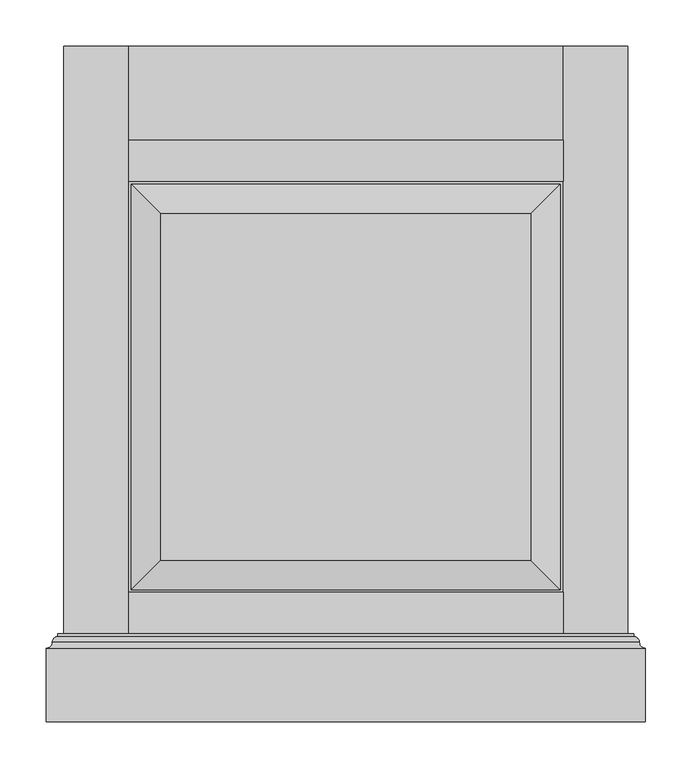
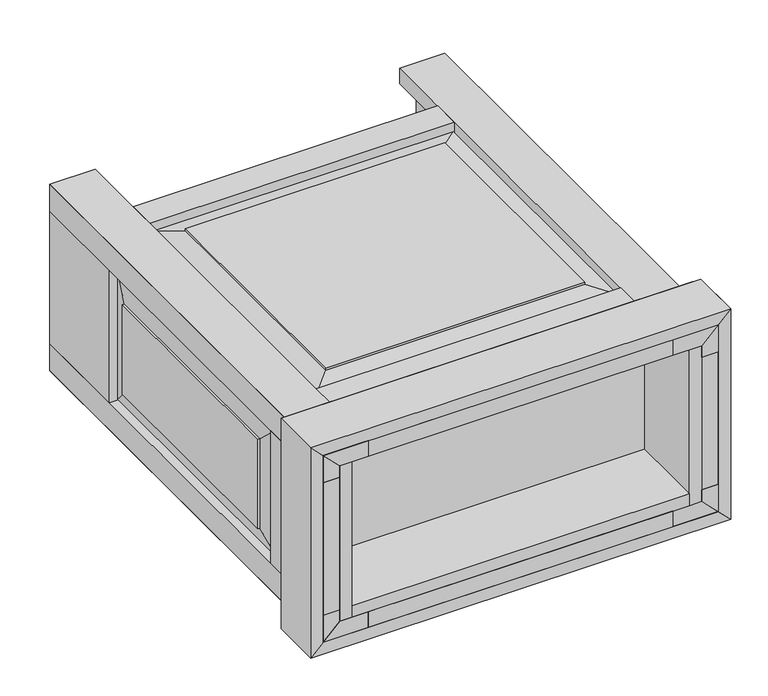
"""IFC4 building model written with IfcOpenShell, lengths in millimetres: proxy geometry, CAMBRIDGE^TABLE 4_HINGED DOOR BASE-ASSEMBLY."""

import ifcopenshell
import ifcopenshell.guid

model = None  # the IFC model being written
_history = None  # IfcOwnerHistory: only IFC2X3 demands one
_inside = {}  # id of a spatial element -> (the spatial element, [elements in it])
_under = {}  # id of a project, library or spatial element -> (it, [spatial elements below it])
_declared = {}  # id of a project -> (the project, [libraries it declares])
_typed = {}  # id of a type object -> (the type object, [elements of that type])
_made_of = {}  # id of a material, layer set ... -> (it, [elements and type objects made of it])


def new_model(schema):
    """Start an empty IFC model of exactly this schema.

    Asked for "IFC4X3", IfcOpenShell would pick the latest addendum, in which some entities
    have other attributes; the version numbers below select the first issue.
    IFC2X3 requires an IfcOwnerHistory on every rooted entity: one is made here for all.
    """
    global model, _history
    if schema == "IFC4X3":
        model = ifcopenshell.file(schema_version=(4, 3, 0, 0))
    else:
        model = ifcopenshell.file(schema=schema)
    _inside.clear()
    _under.clear()
    _declared.clear()
    _typed.clear()
    _made_of.clear()
    _history = None
    if model.schema == "IFC2X3":
        org = make("IfcOrganization", Name="unknown")
        user = make(
            "IfcPersonAndOrganization",
            ThePerson=make("IfcPerson", FamilyName="unknown"),
            TheOrganization=org,
        )
        app = make(
            "IfcApplication",
            ApplicationDeveloper=org,
            Version="unknown",
            ApplicationFullName="unknown",
            ApplicationIdentifier="unknown",
        )
        _history = make(
            "IfcOwnerHistory",
            OwningUser=user,
            OwningApplication=app,
            ChangeAction="ADDED",
            CreationDate=0,
        )
    return model


def make(cls, **values):
    """One entity of the class cls with the attributes given. An attribute that is None is left unset."""
    return model.create_entity(
        cls, **{name: value for name, value in values.items() if value is not None}
    )


def rooted(cls, **values):
    """An entity with a GlobalId (a new one), such as an element, a storey or a relation."""
    return make(cls, GlobalId=ifcopenshell.guid.new(), OwnerHistory=_history, **values)


def si_unit(unit_type, name, prefix=None):
    """IfcSIUnit, for example si_unit("LENGTHUNIT", "METRE", prefix="MILLI")."""
    return make("IfcSIUnit", UnitType=unit_type, Prefix=prefix, Name=name)


def assignment(units):
    """IfcUnitAssignment: the units of a project."""
    return None if units is None else make("IfcUnitAssignment", Units=units)


def point(xyz):
    """IfcCartesianPoint."""
    return None if xyz is None else make("IfcCartesianPoint", Coordinates=xyz)


def direction(xyz):
    """IfcDirection."""
    return None if xyz is None else make("IfcDirection", DirectionRatios=xyz)


def frame(location, z_axis=None, x_axis=None):
    """IfcAxis2Placement3D, a coordinate frame: its origin and axes. An axis left out is left unset."""
    return make(
        "IfcAxis2Placement3D",
        Location=point(location),
        Axis=direction(z_axis),
        RefDirection=direction(x_axis),
    )


def origin():
    """The frame at (0, 0, 0) with its axes left unset."""
    return frame((0.0, 0.0, 0.0))


def place(relative_to, where):
    """IfcLocalPlacement: puts the frame where relative to a parent placement (None: the world)."""
    return make(
        "IfcLocalPlacement", PlacementRelTo=relative_to, RelativePlacement=where
    )


def context(
    kind, dimensions, precision=None, world=None, true_north=None, identifier=None
):
    """IfcGeometricRepresentationContext, for example the 3D "Model" context."""
    return make(
        "IfcGeometricRepresentationContext",
        ContextIdentifier=identifier,
        ContextType=kind,
        CoordinateSpaceDimension=dimensions,
        Precision=precision,
        WorldCoordinateSystem=world,
        TrueNorth=true_north,
    )


def project(units=None, contexts=None):
    """IfcProject with its units and contexts."""
    return rooted(
        "IfcProject",
        Name="project",
        RepresentationContexts=contexts,
        UnitsInContext=assignment(units),
    )


def spatial(cls, under=None, at=None, **own):
    """A site, building, storey or space (cls), placed at a placement, below another one or the project."""
    s = rooted(cls, ObjectPlacement=at, **own)
    if under is not None:
        _under.setdefault(under.id(), (under, []))[1].append(s)
    return s


def polyline(points):
    """IfcPolyline through the points."""
    return make("IfcPolyline", Points=[point(p) for p in points])


def ellipse_curve(where, semi_axis1, semi_axis2):
    """IfcEllipse in the frame where."""
    return make(
        "IfcEllipse", Position=where, SemiAxis1=semi_axis1, SemiAxis2=semi_axis2
    )


def outline(outer, holes=None, kind="AREA"):
    """IfcArbitraryClosedProfileDef: a profile drawn as a closed curve; with holes, ...WithVoids."""
    if holes is None:
        return make("IfcArbitraryClosedProfileDef", ProfileType=kind, OuterCurve=outer)
    return make(
        "IfcArbitraryProfileDefWithVoids",
        ProfileType=kind,
        OuterCurve=outer,
        InnerCurves=holes,
    )


def extrude(swept, where, along, depth):
    """IfcExtrudedAreaSolid: the profile swept, set in the frame where, extruded along a direction by depth."""
    return make(
        "IfcExtrudedAreaSolid",
        SweptArea=swept,
        Position=where,
        ExtrudedDirection=direction(along),
        Depth=depth,
    )


def faces_of(points, faces, orient=None, outer=None):
    """IfcFace entities. A face is a list of loops; a loop is a list of indices into points, from 0.

    orient and outer hold one flag for each loop. By default every Orientation is true, the
    first loop of a face is its IfcFaceOuterBound and the others are IfcFaceBound.
    """
    made = []
    for i, loops in enumerate(faces):
        bounds = []
        for j, loop in enumerate(loops):
            is_outer = j == 0 if outer is None else outer[i][j]
            bounds.append(
                make(
                    "IfcFaceOuterBound" if is_outer else "IfcFaceBound",
                    Bound=make("IfcPolyLoop", Polygon=[points[k] for k in loop]),
                    Orientation=True if orient is None else orient[i][j],
                )
            )
        made.append(make("IfcFace", Bounds=bounds))
    return made


def faceted_brep(points, faces, orient=None, outer=None, voids=None):
    """IfcFacetedBrep: a solid bounded by flat faces; with voids (closed shells), ...WithVoids."""
    shared = [point(p) for p in points]
    hull = make("IfcClosedShell", CfsFaces=faces_of(shared, faces, orient, outer))
    if voids is None:
        return make("IfcFacetedBrep", Outer=hull)
    return make(
        "IfcFacetedBrepWithVoids",
        Outer=hull,
        Voids=[
            make(cls, CfsFaces=faces_of(shared, fs, o, b)) for cls, fs, o, b in voids
        ],
    )


def shape(context_of_items, identifier, shape_type, items):
    """IfcShapeRepresentation: the items that make up one representation, for example the "Body"."""
    return make(
        "IfcShapeRepresentation",
        ContextOfItems=context_of_items,
        RepresentationIdentifier=identifier,
        RepresentationType=shape_type,
        Items=items,
    )


def source(mapping_origin, context_of_items, identifier, shape_type, items):
    """IfcRepresentationMap: a shape defined once, which mapped items show again and again."""
    return make(
        "IfcRepresentationMap",
        MappingOrigin=mapping_origin,
        MappedRepresentation=shape(context_of_items, identifier, shape_type, items),
    )


def transform(
    local_origin,
    x_axis=None,
    y_axis=None,
    z_axis=None,
    scale=None,
    scale2=None,
    scale3=None,
    uniform=True,
):
    """IfcCartesianTransformationOperator3D, or its non-uniform kind. x_axis, y_axis, z_axis: its Axis1, 2, 3."""
    if uniform:
        return make(
            "IfcCartesianTransformationOperator3D",
            Axis1=direction(x_axis),
            Axis2=direction(y_axis),
            LocalOrigin=point(local_origin),
            Scale=scale,
            Axis3=direction(z_axis),
        )
    return make(
        "IfcCartesianTransformationOperator3DnonUniform",
        Axis1=direction(x_axis),
        Axis2=direction(y_axis),
        LocalOrigin=point(local_origin),
        Scale=scale,
        Axis3=direction(z_axis),
        Scale2=scale2,
        Scale3=scale3,
    )


def mapped(mapping_source, mapping_target):
    """IfcMappedItem: shows the shape of a source again, moved by a transform."""
    return make(
        "IfcMappedItem", MappingSource=mapping_source, MappingTarget=mapping_target
    )


def made_of(thing, what):
    """Note that an element or type object is made of a material, layer set ...; save() writes the relation."""
    if what is not None:
        _made_of.setdefault(what.id(), (what, []))[1].append(thing)
    return thing


def element(
    cls,
    number,
    at=None,
    inside=None,
    cuts=None,
    type_object=None,
    material=None,
    context=None,
    identifier="Body",
    shape_type=None,
    held_by="IfcProductDefinitionShape",
    body=None,
    shapes=None,
    **own,
):
    """One element of the class cls, such as IfcWall. Its Tag is "e" and its number.

    at: its placement. inside: the storey or other place that contains it. cuts: it is an
    opening in that element (IfcRelVoidsElement). A single representation is given by context,
    identifier, shape_type and body (its items); several are given by shapes. held_by: the class
    of the entity that holds the representations. save() writes the other relations.
    """
    e = rooted(cls, Tag="e%d" % number, ObjectPlacement=at, **own)
    if body is not None:
        shapes = [shape(context, identifier, shape_type, body)]
    if shapes is not None:
        e.Representation = make(held_by, Representations=shapes)
    if inside is not None:
        _inside.setdefault(inside.id(), (inside, []))[1].append(e)
    if cuts is not None:
        rooted(
            "IfcRelVoidsElement", RelatingBuildingElement=cuts, RelatedOpeningElement=e
        )
    if type_object is not None:
        _typed.setdefault(type_object.id(), (type_object, []))[1].append(e)
    return made_of(e, material)


def aggregate(whole, parts):
    """IfcRelAggregates: a whole, such as a stair, and the parts it consists of."""
    return rooted("IfcRelAggregates", RelatingObject=whole, RelatedObjects=parts)


def save(model, path):
    """Write the relations noted so far, then the file.

    IfcRelAggregates (storeys below a building ...), IfcRelContainedInSpatialStructure (elements
    in a storey), IfcRelDefinesByType, IfcRelAssociatesMaterial and IfcRelDeclares: one each for
    every whole, place, type object, material and project.
    """
    for whole, parts in _under.values():
        aggregate(whole, parts)
    for where, things in _inside.values():
        rooted(
            "IfcRelContainedInSpatialStructure",
            RelatedElements=things,
            RelatingStructure=where,
        )
    for kind, things in _typed.values():
        rooted("IfcRelDefinesByType", RelatedObjects=things, RelatingType=kind)
    for what, things in _made_of.values():
        rooted("IfcRelAssociatesMaterial", RelatedObjects=things, RelatingMaterial=what)
    for by, libraries in _declared.values():
        rooted("IfcRelDeclares", RelatingContext=by, RelatedDefinitions=libraries)
    model.write(path)


def plane_surface(at):
    """IfcPlane: the flat surface through the origin of the frame at, square to its z axis."""
    return make("IfcPlane", Position=at)


def cylinder_surface(at, radius):
    """IfcCylindricalSurface: all points at the distance radius from the z axis of the frame at."""
    return make("IfcCylindricalSurface", Position=at, Radius=radius)


def revolved_surface(curve, axis_point, axis_direction):
    """IfcSurfaceOfRevolution: the curve turned about the line through axis_point along axis_direction."""
    return make(
        "IfcSurfaceOfRevolution",
        SweptCurve=make("IfcArbitraryOpenProfileDef", ProfileType="CURVE", Curve=curve),
        AxisPosition=make("IfcAxis1Placement", Location=point(axis_point), Axis=direction(axis_direction)),
    )


def advanced_brep(points, edges, surfaces, faces):
    """IfcAdvancedBrep: a solid bounded by faces that lie on surfaces and meet in shared edges.

    An edge is (start, end): straight between two places in points (the first is 0);
    or (start, end, curve); or (start, end, curve, False) where it runs against its curve.
    A face is (place in surfaces, loops), or (place, loops, False) where it looks against
    its surface's normal. A loop lists edges by number (the first is 1), with a minus sign
    where the edge is run from its end to its start. The first loop is the outer one.
    """
    corners = [point(p) for p in points]
    vertices = [make("IfcVertexPoint", VertexGeometry=c) for c in corners]
    made = []
    for start, end, *more in edges:
        made.append(
            make(
                "IfcEdgeCurve",
                EdgeStart=vertices[start],
                EdgeEnd=vertices[end],
                EdgeGeometry=more[0] if more else make("IfcPolyline", Points=[corners[start], corners[end]]),
                SameSense=more[1] if len(more) > 1 else True,
            )
        )
    hull = []
    for where, loops, *sense in faces:
        bounds = []
        for j, loop in enumerate(loops):
            ring = [make("IfcOrientedEdge", EdgeElement=made[abs(k) - 1], Orientation=k > 0) for k in loop]
            bounds.append(
                make(
                    "IfcFaceOuterBound" if j == 0 else "IfcFaceBound",
                    Bound=make("IfcEdgeLoop", EdgeList=ring),
                    Orientation=True,
                )
            )
        hull.append(make("IfcAdvancedFace", Bounds=bounds, FaceSurface=surfaces[where], SameSense=sense[0] if sense else True))
    return make("IfcAdvancedBrep", Outer=make("IfcClosedShell", CfsFaces=hull))


def generic_models_1f10b902(model_context):
    return source(origin(), model_context, "Body", "SolidModel", [
        extrude(outline(polyline([(25.4, 0.0), (0.0, 0.0), (0.0, 139.7), (25.4, 139.7), (25.4, 0.0)])), frame((0.0, 0.0, -260.35), z_axis=(0.0, 0.0, 1.0), x_axis=(1.0, 0.0, 0.0)), (0.0, 0.0, 1.0), 215.9),
        extrude(outline(polyline([(584.2, 571.5), (584.2, 730.25), (609.6, 730.25), (609.6, 571.5), (584.2, 571.5)])), frame((0.0, 0.0, -260.35), z_axis=(0.0, 0.0, 1.0), x_axis=(1.0, 0.0, 0.0)), (0.0, 0.0, 1.0), 215.9),
        extrude(outline(polyline([(0.0, 69.85), (0.0, 0.0), (-25.4, 25.4), (-25.4, 69.85), (0.0, 69.85)])), frame((0.0, 0.0, 0.0), z_axis=(0.0, 1.0, 0.0), x_axis=(0.0, 0.0, 1.0)), (0.0, 0.0, 1.0), 730.25),
        extrude(outline(polyline([(-260.35, 584.2), (-279.4, 584.2), (-304.8, 609.6), (-260.35, 609.6), (-260.35, 584.2)])), frame((0.0, 0.0, 0.0), z_axis=(0.0, 1.0, 0.0), x_axis=(0.0, 0.0, 1.0)), (0.0, 0.0, 1.0), 730.25),
        advanced_brep(
        [(-12.7, 85.725, 12.7), (-19.05, 79.375, 19.05), (628.65, 79.375, 19.05), (622.3, 85.725, 12.7), (-6.35, 92.075, 6.35), (615.95, 92.075, 6.35), (-6.35, 95.25, 6.35), (615.95, 95.25, 6.35), (0.0, 95.25, 0.0), (0.0, 0.0, 0.0), (-19.05, 0.0, 19.05), (609.6, 95.25, 0.0), (609.6, 0.0, 0.0), (628.65, 0.0, 19.05)],
        [
            (0, 1, ellipse_curve(frame((-19.05, 85.725, 19.05), z_axis=(-0.7071067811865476, 0.0, -0.7071067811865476), x_axis=(0.7071067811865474, 0.0, -0.7071067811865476)), 8.9802561, 6.35)),
            (1, 2),
            (2, 3, ellipse_curve(frame((628.65, 85.725, 19.05), z_axis=(0.7071067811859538, 0.0, -0.7071067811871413), x_axis=(0.7071067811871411, 0.0, 0.7071067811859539)), 8.9802561, 6.35)),
            (3, 0),
            (4, 0, ellipse_curve(frame((-6.35, 85.725, 6.35), z_axis=(0.7071067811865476, 0.0, 0.7071067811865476), x_axis=(0.7071067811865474, 0.0, -0.7071067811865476)), 8.9802561, 6.35)),
            (3, 5, ellipse_curve(frame((615.95, 85.725, 6.35), z_axis=(-0.7071067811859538, 0.0, 0.7071067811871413), x_axis=(0.7071067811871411, 0.0, 0.7071067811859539)), 8.9802561, 6.35)),
            (5, 4),
            (6, 4),
            (5, 7),
            (7, 6),
            (6, 8),
            (8, 9),
            (9, 10),
            (10, 1),
            (7, 11),
            (11, 8),
            (12, 9),
            (11, 12),
            (2, 13),
            (13, 12),
            (10, 13),
        ],
        [
            revolved_surface(polyline([(634.9999999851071, 79.375, 19.05), (-25.399999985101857, 79.375, 19.05)]), (-19.05, 85.725, 19.05), (1.0, 0.0, 0.0)),
            cylinder_surface(frame((-19.05, 85.725, 6.35), z_axis=(1.0, 0.0, 0.0), x_axis=(0.0, -1.0, 0.0)), 6.35),
            plane_surface(frame((-19.05, 92.075, 6.35), z_axis=(0.0, 0.0, 1.0), x_axis=(0.0, 1.0, 0.0))),
            plane_surface(frame((0.0, 0.0, 0.0), z_axis=(-0.7071067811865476, 0.0, -0.7071067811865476), x_axis=(-0.7071067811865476, 0.0, 0.7071067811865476))),
            plane_surface(frame((304.8, 95.25, 9.525), z_axis=(0.0, 1.0, 0.0), x_axis=(0.0, 0.0, 1.0))),
            plane_surface(frame((609.6, 0.0, 0.0), z_axis=(0.0, 0.0, -1.0), x_axis=(-1.0, 0.0, 0.0))),
            plane_surface(frame((628.65, 0.0, 19.05), z_axis=(0.7071067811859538, 0.0, -0.7071067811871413), x_axis=(-0.7071067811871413, 0.0, -0.7071067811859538))),
            plane_surface(frame((-19.05, 0.0, 19.05), z_axis=(0.0, 0.0, 1.0), x_axis=(1.0, 0.0, 0.0))),
            plane_surface(frame((304.8, 0.0, 9.525), z_axis=(0.0, -1.0, 0.0), x_axis=(0.0, 0.0, -1.0))),
        ],
        [
            (0, [[1, 2, 3, 4]]),
            (1, [[5, -4, 6, 7]]),
            (2, [[8, -7, 9, 10]]),
            (3, [[-1, -5, -8, 11, 12, 13, 14]]),
            (4, [[-10, 15, 16, -11]]),
            (5, [[17, -12, -16, 18]]),
            (6, [[-3, 19, 20, -18, -15, -9, -6]]),
            (7, [[-2, -14, 21, -19]]),
            (8, [[-21, -13, -17, -20]]),
        ],
    ),
        extrude(outline(polyline([(539.75, 0.0), (69.85, 0.0), (69.85, 139.7), (539.75, 139.7), (539.75, 0.0)])), frame((0.0, 0.0, -304.8), z_axis=(0.0, 0.0, 1.0), x_axis=(1.0, 0.0, 0.0)), (0.0, 0.0, 1.0), 25.4),
        extrude(outline(polyline([(-44.45, 25.4), (-25.4, 25.4), (0.0, 0.0), (-44.45, 0.0), (-44.45, 25.4)])), frame((0.0, 0.0, 0.0), z_axis=(0.0, 1.0, 0.0), x_axis=(0.0, 0.0, 1.0)), (0.0, 0.0, 1.0), 730.25),
        faceted_brep([(0.0, 174.625, -79.375), (3.175, 174.625, -79.375), (3.175, 536.575, -79.375), (0.0, 536.575, -79.375), (11.6823869, 142.875, -47.625), (11.6823869, 568.325, -47.625), (19.05, 142.875, -47.625), (19.05, 568.325, -47.625), (0.0, 174.625, -225.425), (3.175, 174.625, -225.425), (11.6823869, 142.875, -257.175), (19.05, 142.875, -257.175), (19.05, 571.5, -44.45), (19.05, 571.5, -260.35), (19.05, 139.7, -260.35), (19.05, 139.7, -44.45), (19.05, 568.325, -257.175), (0.0, 536.575, -225.425), (3.175, 536.575, -225.425), (11.6823869, 568.325, -257.175), (25.4, 139.7, -44.45), (25.4, 571.5, -44.45), (25.4, 139.7, -260.35), (25.4, 571.5, -260.35)], [[[0, 1, 2, 3]], [[1, 4, 5, 2]], [[4, 6, 7, 5]], [[8, 9, 1, 0]], [[9, 10, 4, 1]], [[10, 11, 6, 4]], [[12, 13, 14, 15], [11, 16, 7, 6]], [[17, 18, 9, 8]], [[18, 19, 10, 9]], [[19, 16, 11, 10]], [[3, 2, 18, 17]], [[2, 5, 19, 18]], [[5, 7, 16, 19]], [[12, 15, 20, 21]], [[15, 14, 22, 20]], [[14, 13, 23, 22]], [[13, 12, 21, 23]], [[0, 3, 17, 8]], [[20, 22, 23, 21]]]),
        faceted_brep([(536.575, 142.875, -25.4), (73.025, 142.875, -25.4), (73.025, 581.025, -25.4), (536.575, 581.025, -25.4), (504.825, 174.625, 0.0), (504.825, 174.625, -3.175), (504.825, 549.275, -3.175), (504.825, 549.275, 0.0), (536.575, 142.875, -11.6823869), (536.575, 581.025, -11.6823869), (104.775, 174.625, 0.0), (104.775, 174.625, -3.175), (73.025, 142.875, -11.6823869), (104.775, 549.275, 0.0), (104.775, 549.275, -3.175), (73.025, 581.025, -11.6823869)], [[[0, 1, 2, 3]], [[4, 5, 6, 7]], [[5, 8, 9, 6]], [[10, 11, 5, 4]], [[11, 12, 8, 5]], [[13, 14, 11, 10]], [[14, 15, 12, 11]], [[6, 9, 15, 14]], [[7, 6, 14, 13]], [[15, 9, 3, 2]], [[9, 8, 0, 3]], [[12, 15, 2, 1]], [[8, 12, 1, 0]], [[4, 7, 13, 10]]]),
        extrude(outline(polyline([(69.85, 628.65), (539.75, 628.65), (539.75, 584.2), (69.85, 584.2), (69.85, 628.65)])), frame((0.0, 0.0, -25.4), z_axis=(0.0, 0.0, 1.0), x_axis=(1.0, 0.0, 0.0)), (0.0, 0.0, 1.0), 25.4),
        extrude(outline(polyline([(44.45, 139.7), (565.15, 139.7), (565.15, 120.65), (44.45, 120.65), (44.45, 139.7)])), frame((0.0, 0.0, -260.35), z_axis=(0.0, 0.0, 1.0), x_axis=(1.0, 0.0, 0.0)), (0.0, 0.0, 1.0), 234.95),
        extrude(outline(polyline([(-279.4, 69.85), (-279.4, 25.4), (-304.8, 0.0), (-304.8, 69.85), (-279.4, 69.85)])), frame((0.0, 0.0, 0.0), z_axis=(0.0, 1.0, 0.0), x_axis=(0.0, 0.0, 1.0)), (0.0, 0.0, 1.0), 730.25),
        extrude(outline(polyline([(539.75, 0.0), (69.85, 0.0), (69.85, 139.7), (539.75, 139.7), (539.75, 0.0)])), frame((0.0, 0.0, -25.4), z_axis=(0.0, 0.0, 1.0), x_axis=(1.0, 0.0, 0.0)), (0.0, 0.0, 1.0), 25.4),
        extrude(outline(polyline([(25.4, 730.25), (25.4, 571.5), (0.0, 571.5), (0.0, 730.25), (25.4, 730.25)])), frame((0.0, 0.0, -260.35), z_axis=(0.0, 0.0, 1.0), x_axis=(1.0, 0.0, 0.0)), (0.0, 0.0, 1.0), 215.9),
        extrude(outline(polyline([(-25.4, 539.75), (-25.4, 584.2), (0.0, 609.6), (0.0, 539.75), (-25.4, 539.75)])), frame((0.0, 0.0, 0.0), z_axis=(0.0, 1.0, 0.0), x_axis=(0.0, 0.0, 1.0)), (0.0, 0.0, 1.0), 730.25),
        extrude(outline(polyline([(25.4, 730.25), (44.45, 730.25), (44.45, 0.0), (25.4, 0.0), (25.4, 730.25)])), frame((0.0, 0.0, -279.4), z_axis=(0.0, 0.0, 1.0), x_axis=(1.0, 0.0, 0.0)), (0.0, 0.0, 1.0), 254.0),
        extrude(outline(polyline([(44.45, 730.25), (565.15, 730.25), (565.15, 0.0), (44.45, 0.0), (44.45, 730.25)])), frame((0.0, 0.0, -279.4), z_axis=(0.0, 0.0, 1.0), x_axis=(1.0, 0.0, 0.0)), (0.0, 0.0, 1.0), 19.05),
        extrude(outline(polyline([(-44.45, 609.6), (0.0, 609.6), (-25.4, 584.2), (-44.45, 584.2), (-44.45, 609.6)])), frame((0.0, 0.0, 0.0), z_axis=(0.0, 1.0, 0.0), x_axis=(0.0, 0.0, 1.0)), (0.0, 0.0, 1.0), 730.25),
        extrude(outline(polyline([(565.15, 730.25), (584.2, 730.25), (584.2, 0.0), (565.15, 0.0), (565.15, 730.25)])), frame((0.0, 0.0, -279.4), z_axis=(0.0, 0.0, 1.0), x_axis=(1.0, 0.0, 0.0)), (0.0, 0.0, 1.0), 254.0),
        extrude(outline(polyline([(-260.35, 0.0), (-304.8, 0.0), (-279.4, 25.4), (-260.35, 25.4), (-260.35, 0.0)])), frame((0.0, 0.0, 0.0), z_axis=(0.0, 1.0, 0.0), x_axis=(0.0, 0.0, 1.0)), (0.0, 0.0, 1.0), 730.25),
        extrude(outline(polyline([(69.85, 730.25), (539.75, 730.25), (539.75, 584.2), (69.85, 584.2), (69.85, 730.25)])), frame((0.0, 0.0, -304.8), z_axis=(0.0, 0.0, 1.0), x_axis=(1.0, 0.0, 0.0)), (0.0, 0.0, 1.0), 25.4),
        advanced_brep(
        [(-6.35, 92.075, -311.15), (-12.7, 85.725, -317.5), (-12.7, 85.725, 12.7), (-6.35, 92.075, 6.35), (-19.05, 79.375, -323.85), (-19.05, 79.375, 19.05), (-6.35, 95.25, -311.15), (-6.35, 95.25, 6.35), (-19.05, 0.0, 19.05), (0.0, 0.0, 0.0), (0.0, 95.25, 0.0), (-19.05, 0.0, -323.85), (0.0, 95.25, -304.8), (0.0, 0.0, -304.8)],
        [
            (0, 1, ellipse_curve(frame((-6.35, 85.725, -311.15), z_axis=(-0.7071067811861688, 0.0, 0.7071067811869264), x_axis=(0.7071067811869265, 0.0, 0.7071067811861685)), 8.9802561, 6.35)),
            (1, 2),
            (2, 3, ellipse_curve(frame((-6.35, 85.725, 6.35), z_axis=(-0.7071067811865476, 0.0, -0.7071067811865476), x_axis=(-0.7071067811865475, 0.0, 0.7071067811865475)), 8.9802561, 6.35)),
            (3, 0),
            (1, 4, ellipse_curve(frame((-19.05, 85.725, -323.85), z_axis=(0.7071067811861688, 0.0, -0.7071067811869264), x_axis=(0.7071067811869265, 0.0, 0.7071067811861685)), 8.9802561, 6.35)),
            (4, 5),
            (5, 2, ellipse_curve(frame((-19.05, 85.725, 19.05), z_axis=(0.7071067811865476, 0.0, 0.7071067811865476), x_axis=(-0.7071067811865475, 0.0, 0.7071067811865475)), 8.9802561, 6.35)),
            (6, 0),
            (3, 7),
            (7, 6),
            (5, 8),
            (8, 9),
            (9, 10),
            (10, 7),
            (4, 11),
            (11, 8),
            (6, 12),
            (12, 13),
            (13, 11),
            (9, 13),
            (12, 10),
        ],
        [
            cylinder_surface(frame((-6.35, 85.725, -311.15), z_axis=(0.0, 0.0, 1.0), x_axis=(1.0, 0.0, 0.0)), 6.35),
            revolved_surface(polyline([(-12.700000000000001, 85.725, 25.399999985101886), (-12.700000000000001, 85.725, -330.1999999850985)]), (-19.05, 85.725, -323.85), (0.0, 0.0, 1.0)),
            plane_surface(frame((-6.35, 92.075, -311.15), z_axis=(-1.0, 0.0, 0.0), x_axis=(0.0, 1.0, 0.0))),
            plane_surface(frame((-19.05, 0.0, 19.05), z_axis=(0.7071067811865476, 0.0, 0.7071067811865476), x_axis=(0.7071067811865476, 0.0, -0.7071067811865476))),
            plane_surface(frame((-19.05, 0.0, -323.85), z_axis=(-1.0, 0.0, 0.0), x_axis=(0.0, 0.0, 1.0))),
            plane_surface(frame((0.0, 0.0, -304.8), z_axis=(0.7071067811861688, 0.0, -0.7071067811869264), x_axis=(-0.7071067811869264, 0.0, -0.7071067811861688))),
            plane_surface(frame((0.0, 0.0, 0.0), z_axis=(1.0, 0.0, 0.0), x_axis=(0.0, 0.0, -1.0))),
            plane_surface(frame((-9.525, 0.0, -152.4), z_axis=(0.0, -1.0, 0.0), x_axis=(0.0, 0.0, -1.0))),
            plane_surface(frame((-9.525, 95.25, -152.4), z_axis=(0.0, 1.0, 0.0), x_axis=(0.0, 0.0, 1.0))),
        ],
        [
            (0, [[1, 2, 3, 4]]),
            (1, [[5, 6, 7, -2]]),
            (2, [[8, -4, 9, 10]]),
            (3, [[-9, -3, -7, 11, 12, 13, 14]]),
            (4, [[-6, 15, 16, -11]]),
            (5, [[-8, 17, 18, 19, -15, -5, -1]]),
            (6, [[20, -18, 21, -13]]),
            (7, [[-20, -12, -16, -19]]),
            (8, [[-10, -14, -21, -17]]),
        ],
    ),
        advanced_brep(
        [(615.95, 92.075, 6.35), (622.3, 85.725, 12.7), (622.3, 85.725, -317.5), (615.95, 92.075, -311.15), (628.65, 79.375, 19.05), (628.65, 79.375, -323.85), (615.95, 95.25, 6.35), (615.95, 95.25, -311.15), (628.65, 0.0, -323.85), (609.6, 0.0, -304.8), (609.6, 95.25, -304.8), (628.65, 0.0, 19.05), (609.6, 95.25, 0.0), (609.6, 0.0, 0.0)],
        [
            (0, 1, ellipse_curve(frame((615.95, 85.725, 6.35), z_axis=(0.7071067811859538, 0.0, -0.7071067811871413), x_axis=(-0.7071067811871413, 0.0, -0.7071067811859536)), 8.9802561, 6.35)),
            (1, 2),
            (2, 3, ellipse_curve(frame((615.95, 85.725, -311.15), z_axis=(0.707106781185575, 0.0, 0.7071067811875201), x_axis=(0.7071067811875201, 0.0, -0.7071067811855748)), 8.9802561, 6.35)),
            (3, 0),
            (1, 4, ellipse_curve(frame((628.65, 85.725, 19.05), z_axis=(-0.7071067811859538, 0.0, 0.7071067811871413), x_axis=(-0.7071067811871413, 0.0, -0.7071067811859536)), 8.9802561, 6.35)),
            (4, 5),
            (5, 2, ellipse_curve(frame((628.65, 85.725, -323.85), z_axis=(-0.707106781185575, 0.0, -0.7071067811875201), x_axis=(0.7071067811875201, 0.0, -0.7071067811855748)), 8.9802561, 6.35)),
            (6, 0),
            (3, 7),
            (7, 6),
            (5, 8),
            (8, 9),
            (9, 10),
            (10, 7),
            (4, 11),
            (11, 8),
            (6, 12),
            (12, 13),
            (13, 11),
            (9, 13),
            (12, 10),
        ],
        [
            cylinder_surface(frame((615.95, 85.725, 6.35), z_axis=(0.0, 0.0, -1.0), x_axis=(-1.0, 0.0, 0.0)), 6.35),
            revolved_surface(polyline([(622.3, 85.725, -330.19999998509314), (622.3, 85.725, 25.399999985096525)]), (628.65, 85.725, 19.05), (0.0, 0.0, -1.0)),
            plane_surface(frame((615.95, 92.075, 6.35), z_axis=(1.0, 0.0, 0.0), x_axis=(0.0, 1.0, 0.0))),
            plane_surface(frame((628.65, 0.0, -323.85), z_axis=(-0.707106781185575, 0.0, -0.7071067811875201), x_axis=(-0.7071067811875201, 0.0, 0.707106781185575))),
            plane_surface(frame((628.65, 0.0, 19.05), z_axis=(1.0, 0.0, 0.0), x_axis=(0.0, 0.0, -1.0))),
            plane_surface(frame((609.6, 0.0, 0.0), z_axis=(-0.7071067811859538, 0.0, 0.7071067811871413), x_axis=(0.7071067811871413, 0.0, 0.7071067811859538))),
            plane_surface(frame((609.6, 0.0, -304.8), z_axis=(-1.0, 0.0, 0.0), x_axis=(0.0, 0.0, 1.0))),
            plane_surface(frame((619.125, 0.0, -152.4), z_axis=(0.0, -1.0, 0.0), x_axis=(0.0, 0.0, -1.0))),
            plane_surface(frame((619.125, 95.25, -152.4), z_axis=(0.0, 1.0, 0.0), x_axis=(0.0, 0.0, 1.0))),
        ],
        [
            (0, [[1, 2, 3, 4]]),
            (1, [[5, 6, 7, -2]]),
            (2, [[8, -4, 9, 10]]),
            (3, [[-9, -3, -7, 11, 12, 13, 14]]),
            (4, [[-6, 15, 16, -11]]),
            (5, [[-8, 17, 18, 19, -15, -5, -1]]),
            (6, [[20, -18, 21, -13]]),
            (7, [[-12, -16, -19, -20]]),
            (8, [[-10, -14, -21, -17]]),
        ],
    ),
        faceted_brep([(104.775, 174.625, -304.8), (104.775, 174.625, -301.625), (104.775, 549.275, -301.625), (104.775, 549.275, -304.8), (73.025, 142.875, -293.1176131), (73.025, 581.025, -293.1176131), (73.025, 142.875, -285.75), (73.025, 581.025, -285.75), (504.825, 174.625, -304.8), (504.825, 174.625, -301.625), (536.575, 142.875, -293.1176131), (536.575, 142.875, -285.75), (69.85, 584.2, -285.75), (539.75, 584.2, -285.75), (539.75, 139.7, -285.75), (69.85, 139.7, -285.75), (536.575, 581.025, -285.75), (504.825, 549.275, -304.8), (504.825, 549.275, -301.625), (536.575, 581.025, -293.1176131), (69.85, 139.7, -279.4), (69.85, 584.2, -279.4), (539.75, 139.7, -279.4), (539.75, 584.2, -279.4)], [[[0, 1, 2, 3]], [[1, 4, 5, 2]], [[4, 6, 7, 5]], [[8, 9, 1, 0]], [[9, 10, 4, 1]], [[10, 11, 6, 4]], [[12, 13, 14, 15], [11, 16, 7, 6]], [[17, 18, 9, 8]], [[18, 19, 10, 9]], [[19, 16, 11, 10]], [[3, 2, 18, 17]], [[2, 5, 19, 18]], [[5, 7, 16, 19]], [[12, 15, 20, 21]], [[15, 14, 22, 20]], [[14, 13, 23, 22]], [[13, 12, 21, 23]], [[0, 3, 17, 8]], [[20, 22, 23, 21]]]),
        extrude(outline(polyline([(609.6, 0.0), (584.2, 0.0), (584.2, 139.7), (609.6, 139.7), (609.6, 0.0)])), frame((0.0, 0.0, -260.35), z_axis=(0.0, 0.0, 1.0), x_axis=(1.0, 0.0, 0.0)), (0.0, 0.0, 1.0), 215.9),
        advanced_brep(
        [(615.95, 92.075, -311.15), (622.3, 85.725, -317.5), (-12.7, 85.725, -317.5), (-6.35, 92.075, -311.15), (628.65, 79.375, -323.85), (-19.05, 79.375, -323.85), (615.95, 95.25, -311.15), (-6.35, 95.25, -311.15), (-19.05, 0.0, -323.85), (0.0, 0.0, -304.8), (0.0, 95.25, -304.8), (628.65, 0.0, -323.85), (609.6, 95.25, -304.8), (609.6, 0.0, -304.8)],
        [
            (0, 1, ellipse_curve(frame((615.95, 85.725, -311.15), z_axis=(-0.707106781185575, 0.0, -0.7071067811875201), x_axis=(-0.7071067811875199, 0.0, 0.707106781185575)), 8.9802561, 6.35)),
            (1, 2),
            (2, 3, ellipse_curve(frame((-6.35, 85.725, -311.15), z_axis=(0.7071067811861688, 0.0, -0.7071067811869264), x_axis=(-0.7071067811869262, 0.0, -0.7071067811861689)), 8.9802561, 6.35)),
            (3, 0),
            (1, 4, ellipse_curve(frame((628.65, 85.725, -323.85), z_axis=(0.707106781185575, 0.0, 0.7071067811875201), x_axis=(-0.7071067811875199, 0.0, 0.707106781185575)), 8.9802561, 6.35)),
            (4, 5),
            (5, 2, ellipse_curve(frame((-19.05, 85.725, -323.85), z_axis=(-0.7071067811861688, 0.0, 0.7071067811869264), x_axis=(-0.7071067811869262, 0.0, -0.7071067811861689)), 8.9802561, 6.35)),
            (6, 0),
            (3, 7),
            (7, 6),
            (5, 8),
            (8, 9),
            (9, 10),
            (10, 7),
            (4, 11),
            (11, 8),
            (6, 12),
            (12, 13),
            (13, 11),
            (9, 13),
            (12, 10),
        ],
        [
            cylinder_surface(frame((615.95, 85.725, -311.15), z_axis=(-1.0, 0.0, 0.0), x_axis=(0.0, 0.0, 1.0)), 6.35),
            revolved_surface(polyline([(-25.399999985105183, 85.725, -317.5), (634.9999999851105, 85.725, -317.5)]), (628.65, 85.725, -323.85), (-1.0, 0.0, 0.0)),
            plane_surface(frame((615.95, 92.075, -311.15), z_axis=(0.0, 0.0, -1.0), x_axis=(0.0, 1.0, 0.0))),
            plane_surface(frame((-19.05, 0.0, -323.85), z_axis=(-0.7071067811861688, 0.0, 0.7071067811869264), x_axis=(0.7071067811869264, 0.0, 0.7071067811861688))),
            plane_surface(frame((628.65, 0.0, -323.85), z_axis=(0.0, 0.0, -1.0), x_axis=(-1.0, 0.0, 0.0))),
            plane_surface(frame((609.6, 0.0, -304.8), z_axis=(0.707106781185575, 0.0, 0.7071067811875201), x_axis=(0.7071067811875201, 0.0, -0.707106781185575))),
            plane_surface(frame((0.0, 0.0, -304.8), z_axis=(0.0, 0.0, 1.0), x_axis=(1.0, 0.0, 0.0))),
            plane_surface(frame((304.8, 0.0, -314.325), z_axis=(0.0, -1.0, 0.0), x_axis=(0.0, 0.0, -1.0))),
            plane_surface(frame((304.8, 95.25, -314.325), z_axis=(0.0, 1.0, 0.0), x_axis=(0.0, 0.0, 1.0))),
        ],
        [
            (0, [[1, 2, 3, 4]]),
            (1, [[5, 6, 7, -2]]),
            (2, [[8, -4, 9, 10]]),
            (3, [[-9, -3, -7, 11, 12, 13, 14]]),
            (4, [[-6, 15, 16, -11]]),
            (5, [[-8, 17, 18, 19, -15, -5, -1]]),
            (6, [[20, -18, 21, -13]]),
            (7, [[-20, -12, -16, -19]]),
            (8, [[-10, -14, -21, -17]]),
        ],
    ),
        faceted_brep([(609.6, 174.625, -225.425), (606.425, 174.625, -225.425), (606.425, 536.575, -225.425), (609.6, 536.575, -225.425), (597.9176131, 142.875, -257.175), (597.9176131, 568.325, -257.175), (590.55, 142.875, -257.175), (590.55, 568.325, -257.175), (609.6, 174.625, -79.375), (606.425, 174.625, -79.375), (597.9176131, 142.875, -47.625), (590.55, 142.875, -47.625), (590.55, 571.5, -260.35), (590.55, 571.5, -44.45), (590.55, 139.7, -44.45), (590.55, 139.7, -260.35), (590.55, 568.325, -47.625), (609.6, 536.575, -79.375), (606.425, 536.575, -79.375), (597.9176131, 568.325, -47.625), (584.2, 139.7, -260.35), (584.2, 571.5, -260.35), (584.2, 139.7, -44.45), (584.2, 571.5, -44.45)], [[[0, 1, 2, 3]], [[1, 4, 5, 2]], [[4, 6, 7, 5]], [[8, 9, 1, 0]], [[9, 10, 4, 1]], [[10, 11, 6, 4]], [[12, 13, 14, 15], [11, 16, 7, 6]], [[17, 18, 9, 8]], [[18, 19, 10, 9]], [[19, 16, 11, 10]], [[3, 2, 18, 17]], [[2, 5, 19, 18]], [[5, 7, 16, 19]], [[12, 15, 20, 21]], [[15, 14, 22, 20]], [[14, 13, 23, 22]], [[13, 12, 21, 23]], [[0, 3, 17, 8]], [[20, 22, 23, 21]]]),
        extrude(outline(polyline([(-304.8, 539.75), (-304.8, 609.6), (-279.4, 584.2), (-279.4, 539.75), (-304.8, 539.75)])), frame((0.0, 0.0, 0.0), z_axis=(0.0, 1.0, 0.0), x_axis=(0.0, 0.0, 1.0)), (0.0, 0.0, 1.0), 730.25),
    ])


if __name__ == "__main__":
    model = new_model("IFC4")
    model_context = context("Model", 3, world=origin())
    ifc_project = project(units=[si_unit("LENGTHUNIT", "METRE", prefix="MILLI")], contexts=[model_context])
    site = spatial("IfcSite", under=ifc_project)
    building = spatial("IfcBuilding", under=site)
    placement = place(None, origin())
    generic_models_shape = generic_models_1f10b902(model_context)
    element("IfcBuildingElementProxy", 1, Name="CAMBRIDGE^TABLE 4_HINGED DOOR BASE-ASSEMBLY", ObjectType="CAMBRIDGE^TABLE 4_HINGED DOOR BASE-ASSEMBLY", at=placement, inside=building, context=model_context, shape_type="MappedRepresentation", body=[
        mapped(generic_models_shape, transform((0.0, 0.0, 0.0), x_axis=(1.0, 0.0, 0.0), y_axis=(0.0, 1.0, 0.0), z_axis=(0.0, 0.0, 1.0))),
    ])
    save(model, "model.ifc")
